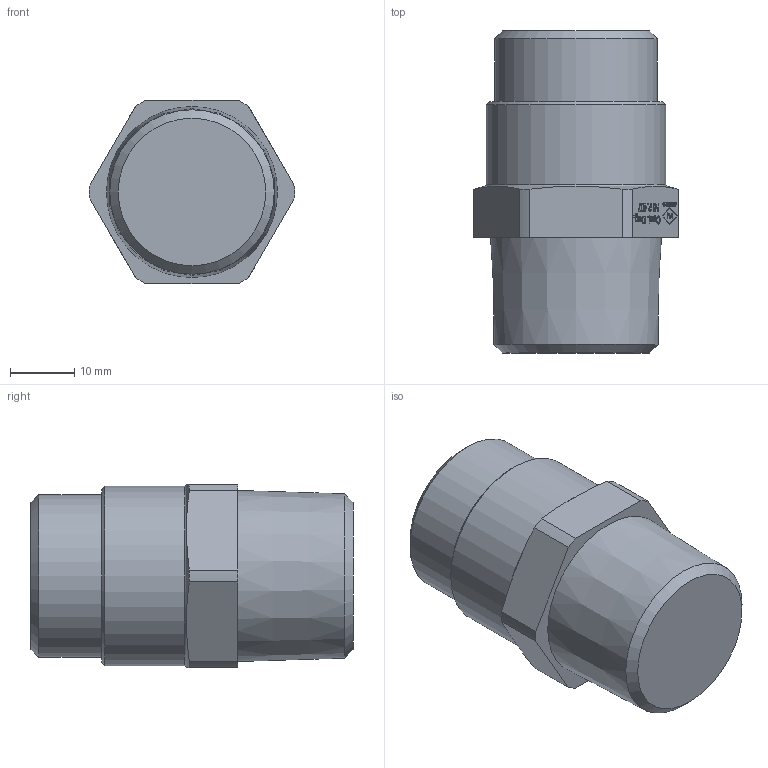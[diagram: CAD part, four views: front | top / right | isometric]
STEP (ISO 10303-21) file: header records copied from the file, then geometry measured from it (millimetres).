
FILE_DESCRIPTION(/* description */ ('PART (MM)'),/* implementation_level */ '2;1');
FILE_NAME(/* name */ 'L:\CAD Inventor\Workspace\Catalogs\CATALOG-TURCK CONNECTORS\P-RSFV-EX-14_75NPT-Bsize.stp',/* time_stamp */ '2021-03-02T11:07:12-06:00',/* author */ ('RSwans'),/* organization */ (''),/* preprocessor_version */ 'ST-DEVELOPER v16.5',/* originating_system */ 'Autodesk Inventor 2017',/* authorisation */ '');
FILE_SCHEMA (('AUTOMOTIVE_DESIGN { 1 0 10303 214 3 1 1 }'));
Length unit declared in the file: millimetre
Products named in the file (1): Part2
Bounding box: 31.99 x 50.21 x 28.6 mm (x, y, z)
Volume: 20249.5 mm3; surface area: 9829 mm2
Topology: 1 solids, 3 shells, 127 faces, 3236 edges, 3160 vertices
Faces by surface type: plane 75, cylinder 27, cone 18, torus 5, bspline 2
Full cylindrical faces by diameter (mm): 21 x4, 21.25 x1, 21.9 x1, 24 x2, 25.4 x1, 28 x1
Entity records: 30305 total; most frequent: CARTESIAN_POINT 6778, ORIENTED_EDGE 6410, DIRECTION 3483, EDGE_CURVE 3205, VERTEX_POINT 3153, LINE 3095, VECTOR 3095, EDGE_LOOP 198
